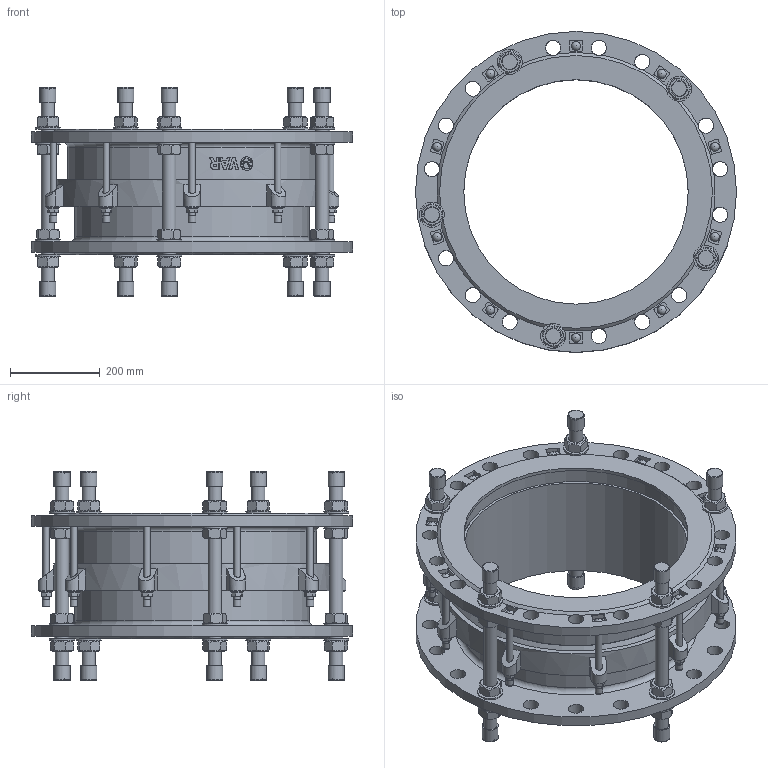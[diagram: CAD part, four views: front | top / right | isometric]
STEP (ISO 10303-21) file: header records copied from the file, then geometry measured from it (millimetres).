
FILE_DESCRIPTION(('STEP AP242'), '1');
FILE_NAME('Ìîíòàæíàÿ âñòàâêà', '', ('UNSPECIFIED'), ('UNSPECIFIED'), 'C3D Converter', 'C3D Toolkit', '');
FILE_SCHEMA(('AP242_MANAGED_MODEL_BASED_3D_ENGINEERING_MIM_LF { 1 0 10303 442 1 1 4 }'));
Length unit declared in the file: millimetre
Products named in the file (13): ШМ.М16.310
Assembly tree (99 placements, depth 2):
  (unnamed)
    (unnamed)
    (unnamed)
    (unnamed)
    (unnamed)  x20
    (unnamed)  x20
    ШМ.М16.310  x5
    (unnamed)  x10
    (unnamed)
    (unnamed)  x10
    (unnamed)  x10
    (unnamed)  x10
    (unnamed)  x10
Bounding box: 715 x 715 x 466 mm (x, y, z)
Volume: 21881146.8 mm3; surface area: 3405442.8 mm2
Topology: 99 solids, 99 shells, 1112 faces, 2520 edges, 1601 vertices
Faces by surface type: plane 656, cylinder 267, cone 146, torus 22, extrusion 11, sphere 10
Full cylindrical faces by diameter (mm): 14 x30, 15 x10, 16 x10, 16.8 x10, 28 x10, 30 x35, 30.201 x1, 31 x20, 34 x40, 36 x10, 56 x20, 500 x2, 522 x2, 533 x2, 555 x1, 577 x1, 594 x1, 616 x1, 715 x2
Entity records: 24400 total; most frequent: CARTESIAN_POINT 11605, DIRECTION 2122, ORIENTED_EDGE 1926, EDGE_CURVE 963, AXIS2_PLACEMENT_3D 846, VERTEX_POINT 696, EDGE_LOOP 591, FACE_BOUND 449
